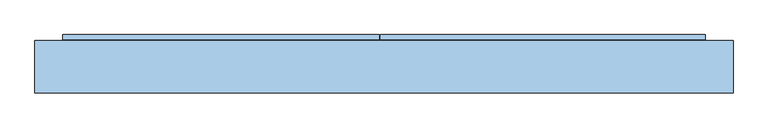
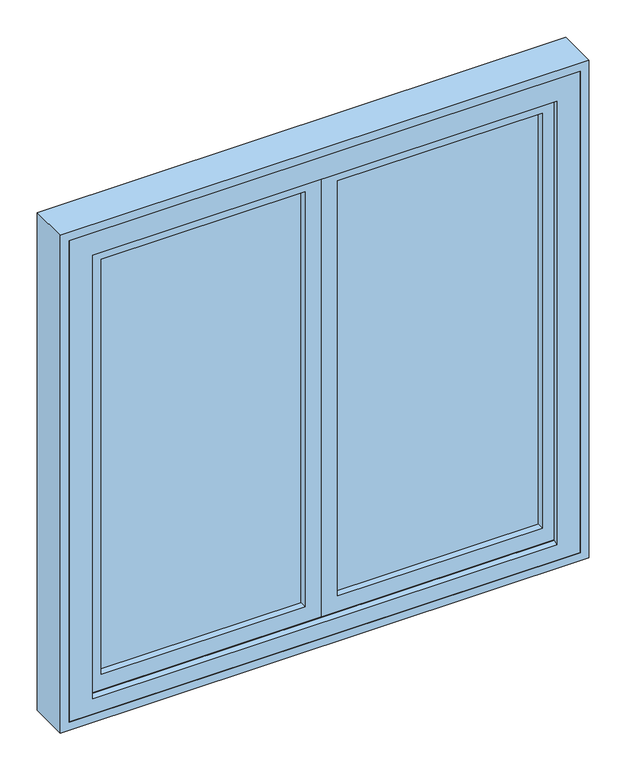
"""IFC4 building model written with IfcOpenShell, lengths in millimetres: window geometry, Окно 2-Распашное - Разделенные наружные и парные внутренние переплеты с остеклением - ГОСТ 11214-2003 : ОД РСП Г1 1760-1770-138 ГОСТ 11214-2003."""

from ifc_helpers import new_model, si_unit, frame, origin, place, context, project, spatial, polyline, outline, extrude, faceted_brep, source, transform, mapped, element, save


def window_310a172f(model_context):
    return source(origin(), model_context, "Body", "SolidModel", [
        extrude(outline(polyline([(2620.0, 895.0), (2620.0, -935.0), (800.0, -935.0), (800.0, 895.0), (2620.0, 895.0)]), holes=[polyline([(2590.0, -905.0), (2590.0, 865.0), (830.0, 865.0), (830.0, -905.0), (2590.0, -905.0)])]), frame((0.0, -305.0, 0.0), z_axis=(0.0, 1.0, 0.0), x_axis=(0.0, 0.0, 1.0)), (0.0, 0.0, 1.0), 138.0),
        extrude(outline(polyline([(764.0, -262.0), (15.0, -262.0), (15.0, -259.0), (764.0, -259.0), (764.0, -262.0)])), frame((0.0, 0.0, 931.0), z_axis=(0.0, 0.0, 1.0), x_axis=(1.0, 0.0, 0.0)), (0.0, 0.0, 1.0), 1558.0),
        faceted_brep([(800.0, -259.0, 2525.0), (800.0, -287.0, 2525.0), (800.0, -287.0, 895.0), (800.0, -259.0, 895.0), (-20.0, -287.0, 895.0), (-20.0, -259.0, 895.0), (-30.0, -259.0, 2534.0), (-30.0, -259.0, 2525.0), (-20.0, -259.0, 2525.0), (-30.0, -259.0, 895.0), (-30.0, -259.0, 886.0), (809.0, -259.0, 886.0), (809.0, -259.0, 2534.0), (-20.0, -257.0, 2525.0), (-20.0, -257.0, 895.0), (-20.0, -287.0, 2525.0), (744.0, -287.0, 951.0), (35.0, -287.0, 951.0), (35.0, -287.0, 2469.0), (744.0, -287.0, 2469.0), (-30.0, -257.0, 2525.0), (-30.0, -246.0, 2534.0), (-30.0, -246.0, 886.0), (-30.0, -257.0, 895.0), (809.0, -246.0, 886.0), (809.0, -246.0, 2534.0), (744.0, -246.0, 2469.0), (35.0, -246.0, 2469.0), (35.0, -246.0, 951.0), (744.0, -246.0, 951.0), (744.0, -259.0, 2469.0), (744.0, -259.0, 951.0), (35.0, -259.0, 951.0), (35.0, -259.0, 2469.0), (764.0, -259.0, 2489.0), (15.0, -259.0, 2489.0), (15.0, -259.0, 931.0), (764.0, -259.0, 931.0), (764.0, -262.0, 2489.0), (764.0, -262.0, 931.0), (15.0, -262.0, 931.0), (15.0, -262.0, 2489.0), (744.0, -262.0, 2469.0), (35.0, -262.0, 2469.0), (35.0, -262.0, 951.0), (744.0, -262.0, 951.0)], [[[0, 1, 2, 3]], [[2, 4, 5, 3]], [[6, 7, 8, 0, 3, 5, 9, 10, 11, 12]], [[8, 13, 14, 5, 4, 15]], [[1, 15, 4, 2], [16, 17, 18, 19]], [[20, 7, 6, 21, 22, 10, 9, 23]], [[23, 14, 13, 20]], [[5, 14, 23, 9]], [[11, 10, 22, 24]], [[24, 22, 21, 25], [26, 27, 28, 29]], [[30, 26, 29, 31]], [[29, 28, 32, 31]], [[27, 33, 32, 28]], [[25, 12, 11, 24]], [[34, 35, 36, 37], [31, 32, 33, 30]], [[38, 34, 37, 39]], [[37, 36, 40, 39]], [[41, 40, 36, 35]], [[39, 40, 41, 38], [42, 43, 44, 45]], [[42, 45, 16, 19]], [[45, 44, 17, 16]], [[43, 18, 17, 44]], [[0, 8, 15, 1]], [[7, 20, 13, 8]], [[21, 6, 12, 25]], [[30, 33, 27, 26]], [[38, 41, 35, 34]], [[19, 18, 43, 42]]]),
        extrude(outline(polyline([(777.0, -212.0), (777.0, -215.0), (15.0, -215.0), (15.0, -212.0), (777.0, -212.0)])), frame((0.0, 0.0, 918.0), z_axis=(0.0, 0.0, 1.0), x_axis=(1.0, 0.0, 0.0)), (0.0, 0.0, 1.0), 1584.0),
        faceted_brep([(812.0, -228.0, 883.0), (-20.0, -228.0, 883.0), (-20.0, -196.0, 883.0), (812.0, -196.0, 883.0), (-20.0, -228.0, 2537.0), (-20.0, -196.0, 2537.0), (812.0, -196.0, 2537.0), (35.0, -196.0, 2482.0), (35.0, -196.0, 938.0), (757.0, -196.0, 938.0), (757.0, -196.0, 2482.0), (812.0, -228.0, 2537.0), (35.0, -228.0, 938.0), (35.0, -228.0, 2482.0), (757.0, -228.0, 2482.0), (757.0, -228.0, 938.0), (757.0, -215.0, 938.0), (35.0, -215.0, 938.0), (35.0, -215.0, 2482.0), (15.0, -215.0, 918.0), (15.0, -215.0, 2502.0), (777.0, -215.0, 2502.0), (777.0, -215.0, 918.0), (757.0, -215.0, 2482.0), (777.0, -212.0, 918.0), (15.0, -212.0, 918.0), (15.0, -212.0, 2502.0), (777.0, -212.0, 2502.0), (35.0, -212.0, 938.0), (35.0, -212.0, 2482.0), (757.0, -212.0, 2482.0), (757.0, -212.0, 938.0)], [[[0, 1, 2, 3]], [[1, 4, 5, 2]], [[2, 5, 6, 3], [7, 8, 9, 10]], [[4, 1, 0, 11], [12, 13, 14, 15]], [[16, 17, 12, 15]], [[17, 18, 13, 12]], [[19, 20, 21, 22], [18, 17, 16, 23]], [[24, 25, 19, 22]], [[25, 26, 20, 19]], [[26, 25, 24, 27], [28, 29, 30, 31]], [[9, 8, 28, 31]], [[8, 7, 29, 28]], [[11, 0, 3, 6]], [[23, 16, 15, 14]], [[27, 24, 22, 21]], [[10, 9, 31, 30]], [[4, 11, 6, 5]], [[18, 23, 14, 13]], [[26, 27, 21, 20]], [[7, 10, 30, 29]]]),
        faceted_brep([(-30.0, -152.0, 873.0383918), (-30.0, -152.0, 2546.9616082), (821.9616082, -152.0, 2546.9616082), (821.9616082, -152.0, 873.0383918), (756.9616082, -152.0, 938.0383918), (756.9616082, -152.0, 2481.9616082), (35.0, -152.0, 2481.9616082), (35.0, -152.0, 938.0383918), (821.9616082, -165.0, 873.0383918), (-30.0, -165.0, 873.0383918), (821.9616082, -165.0, 2546.9616082), (-30.0, -165.0, 2546.9616082), (35.0, -165.0, 938.0383918), (756.9616082, -165.0, 938.0383918), (35.0, -165.0, 2481.9616082), (756.9616082, -165.0, 2481.9616082), (812.0, -165.0, 2537.0), (812.0, -194.0, 2537.0), (812.0, -194.0, 883.0), (812.0, -165.0, 883.0), (-20.0, -165.0, 883.0), (-20.0, -165.0, 2537.0), (-20.0, -194.0, 883.0), (-20.0, -194.0, 2537.0), (756.9616082, -194.0, 2481.9616082), (756.9616082, -194.0, 938.0383918), (35.0, -194.0, 938.0383918), (35.0, -194.0, 2481.9616082), (777.0, -168.0, 918.0), (15.0, -168.0, 918.0), (15.0, -168.0, 2502.0), (777.0, -168.0, 2502.0), (756.9616082, -168.0, 2481.9616082), (35.0, -168.0, 2481.9616082), (35.0, -168.0, 938.0383918), (756.9616082, -168.0, 938.0383918), (777.0, -165.0, 2502.0), (777.0, -165.0, 918.0), (15.0, -165.0, 918.0), (15.0, -165.0, 2502.0)], [[[0, 1, 2, 3], [4, 5, 6, 7]], [[0, 3, 8, 9]], [[2, 10, 8, 3]], [[0, 9, 11, 1]], [[4, 7, 12, 13]], [[6, 14, 12, 7]], [[15, 5, 4, 13]], [[16, 17, 18, 19]], [[11, 9, 8, 10], [19, 20, 21, 16]], [[20, 22, 23, 21]], [[22, 20, 19, 18]], [[22, 18, 17, 23], [24, 25, 26, 27]], [[28, 29, 30, 31], [32, 33, 34, 35]], [[32, 35, 25, 24]], [[35, 34, 26, 25]], [[33, 27, 26, 34]], [[31, 36, 37, 28]], [[29, 38, 39, 30]], [[38, 29, 28, 37]], [[36, 39, 38, 37], [15, 13, 12, 14]], [[11, 10, 2, 1]], [[15, 14, 6, 5]], [[17, 16, 21, 23]], [[24, 27, 33, 32]], [[30, 39, 36, 31]]]),
        extrude(outline(polyline([(15.0, -165.0), (777.0, -165.0), (777.0, -168.0), (15.0, -168.0), (15.0, -165.0)])), frame((0.0, 0.0, 918.0), z_axis=(0.0, 0.0, 1.0), x_axis=(1.0, 0.0, 0.0)), (0.0, 0.0, 1.0), 1584.0),
        faceted_brep([(-22.0, -287.0, 895.0), (-840.0, -287.0, 895.0), (-840.0, -259.0, 895.0), (-32.0, -259.0, 895.0), (-22.0, -259.0, 895.0), (-22.0, -287.0, 2525.0), (-22.0, -259.0, 2525.0), (-32.0, -259.0, 2525.0), (-32.0, -259.0, 2534.0), (-849.0, -259.0, 2534.0), (-849.0, -259.0, 886.0), (-32.0, -259.0, 886.0), (-840.0, -259.0, 2525.0), (-840.0, -287.0, 2525.0), (-77.0, -287.0, 951.0), (-784.0, -287.0, 951.0), (-784.0, -287.0, 2469.0), (-77.0, -287.0, 2469.0), (-77.0, -262.0, 2469.0), (-77.0, -262.0, 951.0), (-784.0, -262.0, 951.0), (-784.0, -262.0, 2469.0), (-804.0, -262.0, 2489.0), (-57.0, -262.0, 2489.0), (-57.0, -262.0, 931.0), (-804.0, -262.0, 931.0), (-804.0, -259.0, 2489.0), (-804.0, -259.0, 931.0), (-57.0, -259.0, 931.0), (-57.0, -259.0, 2489.0), (-77.0, -259.0, 951.0), (-784.0, -259.0, 951.0), (-784.0, -259.0, 2469.0), (-77.0, -259.0, 2469.0), (-77.0, -246.0, 2469.0), (-77.0, -246.0, 951.0), (-784.0, -246.0, 2469.0), (-784.0, -246.0, 951.0), (-32.0, -246.0, 2534.0), (-32.0, -246.0, 886.0), (-849.0, -246.0, 886.0), (-849.0, -246.0, 2534.0)], [[[0, 1, 2, 3, 4]], [[5, 0, 4, 6]], [[6, 4, 3, 7]], [[8, 9, 10, 11, 3, 2, 12, 7]], [[13, 12, 2, 1]], [[13, 1, 0, 5], [14, 15, 16, 17]], [[17, 18, 19, 14]], [[15, 20, 21, 16]], [[15, 14, 19, 20]], [[22, 23, 24, 25], [18, 21, 20, 19]], [[26, 22, 25, 27]], [[24, 28, 27, 25]], [[23, 29, 28, 24]], [[27, 28, 29, 26], [30, 31, 32, 33]], [[33, 34, 35, 30]], [[36, 32, 31, 37]], [[31, 30, 35, 37]], [[38, 39, 40, 41], [34, 36, 37, 35]], [[9, 41, 40, 10]], [[10, 40, 39, 11]], [[38, 8, 7, 3, 11, 39]], [[7, 12, 13, 5, 6]], [[21, 18, 17, 16]], [[29, 23, 22, 26]], [[36, 34, 33, 32]], [[38, 41, 9, 8]]]),
        faceted_brep([(-22.0, -196.0, 883.0), (-22.0, -196.0, 2537.0), (-22.0, -228.0, 2537.0), (-22.0, -228.0, 883.0), (-852.0, -228.0, 883.0), (-852.0, -196.0, 883.0), (-852.0, -228.0, 2537.0), (-797.0, -228.0, 938.0), (-797.0, -228.0, 2482.0), (-77.0, -228.0, 2482.0), (-77.0, -228.0, 938.0), (-852.0, -196.0, 2537.0), (-797.0, -196.0, 938.0), (-77.0, -196.0, 938.0), (-77.0, -196.0, 2482.0), (-797.0, -196.0, 2482.0), (-797.0, -212.0, 2482.0), (-797.0, -212.0, 938.0), (-77.0, -212.0, 938.0), (-77.0, -212.0, 2482.0), (-77.0, -215.0, 938.0), (-797.0, -215.0, 938.0), (-77.0, -215.0, 2482.0), (-797.0, -215.0, 2482.0), (-817.0, -212.0, 918.0), (-57.0, -212.0, 918.0), (-57.0, -212.0, 2502.0), (-817.0, -212.0, 2502.0), (-817.0, -215.0, 2502.0), (-57.0, -215.0, 2502.0), (-57.0, -215.0, 918.0), (-817.0, -215.0, 918.0)], [[[0, 1, 2, 3]], [[3, 4, 5, 0]], [[2, 6, 4, 3], [7, 8, 9, 10]], [[0, 5, 11, 1], [12, 13, 14, 15]], [[15, 16, 17, 12]], [[13, 18, 19, 14]], [[17, 18, 13, 12]], [[5, 4, 6, 11]], [[7, 10, 20, 21]], [[20, 10, 9, 22]], [[7, 21, 23, 8]], [[24, 25, 26, 27], [16, 19, 18, 17]], [[28, 29, 30, 31], [21, 20, 22, 23]], [[31, 24, 27, 28]], [[30, 25, 24, 31]], [[25, 30, 29, 26]], [[11, 6, 2, 1]], [[15, 14, 19, 16]], [[23, 22, 9, 8]], [[26, 29, 28, 27]]]),
        faceted_brep([(-32.0, -152.0, 873.0), (-32.0, -152.0, 2547.0), (-32.0, -165.0, 2547.0), (-32.0, -165.0, 2537.0), (-32.0, -167.0, 2537.0), (-32.0, -167.0, 883.0), (-32.0, -165.0, 883.0), (-32.0, -165.0, 873.0), (-862.0, -165.0, 873.0), (-862.0, -152.0, 873.0), (-852.0, -165.0, 883.0), (-852.0, -165.0, 2537.0), (-862.0, -165.0, 2547.0), (-22.0, -167.0, 883.0), (-22.0, -194.0, 883.0), (-852.0, -194.0, 883.0), (-22.0, -167.0, 2537.0), (-862.0, -152.0, 2547.0), (-797.0, -152.0, 2482.0), (-797.0, -152.0, 938.0), (-77.0, -152.0, 938.0), (-77.0, -152.0, 2482.0), (-852.0, -194.0, 2537.0), (-22.0, -194.0, 2537.0), (-797.0, -194.0, 938.0), (-797.0, -194.0, 2482.0), (-77.0, -194.0, 2482.0), (-77.0, -194.0, 938.0), (-77.0, -168.0, 938.0), (-797.0, -168.0, 938.0), (-77.0, -168.0, 2482.0), (-797.0, -168.0, 2482.0), (-797.0, -165.0, 938.0), (-77.0, -165.0, 938.0), (-797.0, -165.0, 2482.0), (-77.0, -165.0, 2482.0), (-817.0, -165.0, 918.0), (-57.0, -165.0, 918.0), (-57.0, -165.0, 2502.0), (-817.0, -165.0, 2502.0), (-817.0, -168.0, 2502.0), (-57.0, -168.0, 2502.0), (-57.0, -168.0, 918.0), (-817.0, -168.0, 918.0)], [[[0, 1, 2, 3, 4, 5, 6, 7]], [[7, 8, 9, 0]], [[10, 11, 3, 2, 12, 8, 7, 6]], [[10, 6, 5, 13, 14, 15]], [[16, 13, 5, 4]], [[9, 17, 1, 0], [18, 19, 20, 21]], [[8, 12, 17, 9]], [[10, 15, 22, 11]], [[14, 23, 22, 15], [24, 25, 26, 27]], [[23, 14, 13, 16]], [[24, 27, 28, 29]], [[28, 27, 26, 30]], [[24, 29, 31, 25]], [[32, 33, 20, 19]], [[19, 18, 34, 32]], [[20, 33, 35, 21]], [[36, 37, 38, 39], [34, 35, 33, 32]], [[40, 41, 42, 43], [29, 28, 30, 31]], [[43, 36, 39, 40]], [[42, 37, 36, 43]], [[37, 42, 41, 38]], [[23, 16, 4, 3, 11, 22]], [[2, 1, 17, 12]], [[31, 30, 26, 25]], [[18, 21, 35, 34]], [[38, 41, 40, 39]]]),
        extrude(outline(polyline([(-804.0, -259.0), (-57.0, -259.0), (-57.0, -262.0), (-804.0, -262.0), (-804.0, -259.0)])), frame((0.0, 0.0, 931.0), z_axis=(0.0, 0.0, 1.0), x_axis=(1.0, 0.0, 0.0)), (0.0, 0.0, 1.0), 1561.0),
        extrude(outline(polyline([(-817.0, -212.0), (-57.0, -212.0), (-57.0, -215.0), (-817.0, -215.0), (-817.0, -212.0)])), frame((0.0, 0.0, 918.0), z_axis=(0.0, 0.0, 1.0), x_axis=(1.0, 0.0, 0.0)), (0.0, 0.0, 1.0), 1584.0),
        extrude(outline(polyline([(-817.0, -165.0), (-57.0, -165.0), (-57.0, -168.0), (-817.0, -168.0), (-817.0, -165.0)])), frame((0.0, 0.0, 918.0), z_axis=(0.0, 0.0, 1.0), x_axis=(1.0, 0.0, 0.0)), (0.0, 0.0, 1.0), 1584.0),
        faceted_brep([(865.0, -305.0, 830.0), (-905.0, -305.0, 830.0), (-905.0, -167.0, 830.0), (865.0, -167.0, 830.0), (865.0, -167.0, 2590.0), (865.0, -305.0, 2590.0), (-905.0, -167.0, 2590.0), (814.0, -167.0, 2539.0), (-854.0, -167.0, 2539.0), (-854.0, -167.0, 881.0), (814.0, -167.0, 881.0), (-905.0, -305.0, 2590.0), (-824.0, -305.0, 2509.0), (784.0, -305.0, 2509.0), (784.0, -305.0, 887.1764763), (-824.0, -305.0, 887.1764763), (814.0, -261.0, 2539.0), (814.0, -261.0, 881.0), (-854.0, -261.0, 881.0), (-854.0, -261.0, 2539.0), (802.0, -261.0, 2527.0), (-842.0, -261.0, 2527.0), (-842.0, -261.0, 893.0), (802.0, -261.0, 893.0), (-842.0, -289.0, 2527.0), (-842.0, -289.0, 893.0), (-824.0, -289.0, 893.0), (784.0, -289.0, 893.0), (802.0, -289.0, 893.0), (802.0, -289.0, 2527.0), (784.0, -289.0, 2509.0), (-824.0, -289.0, 2509.0)], [[[0, 1, 2, 3]], [[4, 5, 0, 3]], [[2, 6, 4, 3], [7, 8, 9, 10]], [[2, 1, 11, 6]], [[0, 5, 11, 1], [12, 13, 14, 15]], [[16, 17, 18, 19], [20, 21, 22, 23]], [[18, 9, 8, 19]], [[9, 18, 17, 10]], [[24, 25, 22, 21]], [[22, 25, 26, 27, 28, 23]], [[29, 28, 27, 30, 31, 26, 25, 24]], [[12, 15, 26, 31]], [[14, 27, 26, 15]], [[7, 10, 17, 16]], [[20, 23, 28, 29]], [[30, 27, 14, 13]], [[4, 6, 11, 5]], [[16, 19, 8, 7]], [[29, 24, 21, 20]], [[13, 12, 31, 30]]]),
    ])


if __name__ == "__main__":
    model = new_model("IFC4")
    model_context = context("Model", 3, world=origin())
    ifc_project = project(units=[si_unit("LENGTHUNIT", "METRE", prefix="MILLI")], contexts=[model_context])
    site = spatial("IfcSite", under=ifc_project)
    building = spatial("IfcBuilding", under=site)
    placement = place(None, origin())
    window_shape = window_310a172f(model_context)
    element("IfcWindow", 1, ObjectType="Окно 2-Распашное - Разделенные наружные и парные внутренние переплеты с остеклением - ГОСТ 11214-2003 : ОД РСП Г1 1760-1770-138 ГОСТ 11214-2003", at=placement, inside=building, context=model_context, shape_type="MappedRepresentation", body=[
        mapped(window_shape, transform((0.0, 0.0, 0.0), x_axis=(1.0, 0.0, 0.0), y_axis=(0.0, 1.0, 0.0), z_axis=(0.0, 0.0, 1.0))),
    ])
    save(model, "model.ifc")
